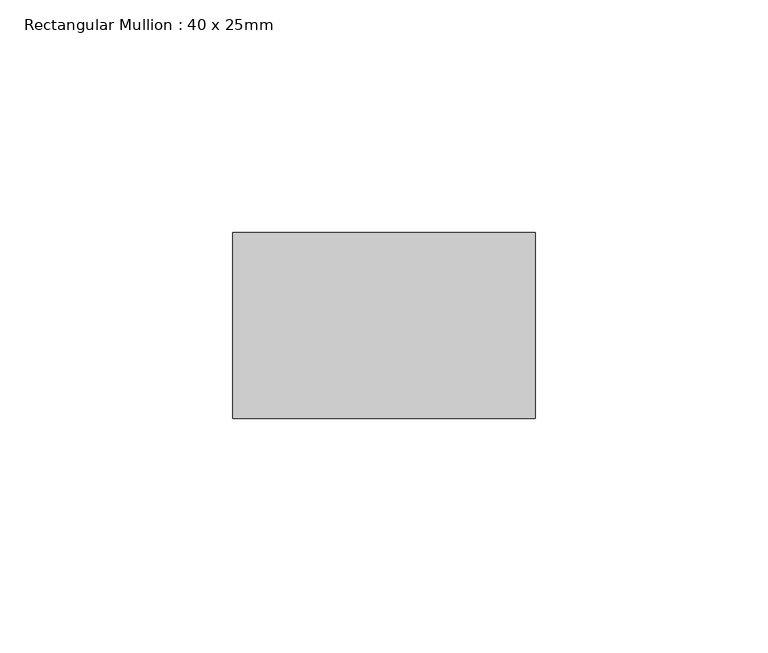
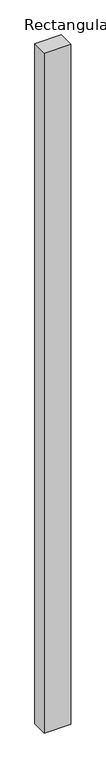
"""IFC4 building model written with IfcOpenShell, lengths in millimetres: member geometry, Rectangular Mullion : 40 x 25mm."""

from ifc_helpers import new_model, si_unit, frame, origin, place, context, project, spatial, polyline, outline, extrude, source, transform, mapped, element, save


def rectangular_mullion_40_x_25mm_67678fe8(model_context):
    return source(origin(), model_context, "Body", "SweptSolid", [
        extrude(outline(polyline([(0.0, -20.0), (0.0, -60.0), (-65.0, -60.0), (-65.0, -20.0), (0.0, -20.0)])), frame((0.0, 0.0, -1763.0), z_axis=(0.0, 0.0, 1.0), x_axis=(1.0, 0.0, 0.0)), (0.0, 0.0, 1.0), 1763.0),
    ])


if __name__ == "__main__":
    model = new_model("IFC4")
    model_context = context("Model", 3, world=origin())
    ifc_project = project(units=[si_unit("LENGTHUNIT", "METRE", prefix="MILLI")], contexts=[model_context])
    site = spatial("IfcSite", under=ifc_project)
    building = spatial("IfcBuilding", under=site)
    placement = place(None, origin())
    rectangular_mullion_40_x_25mm_shape = rectangular_mullion_40_x_25mm_67678fe8(model_context)
    element("IfcMember", 1, ObjectType="Rectangular Mullion : 40 x 25mm", at=placement, inside=building, context=model_context, shape_type="MappedRepresentation", body=[
        mapped(rectangular_mullion_40_x_25mm_shape, transform((0.0, 0.0, 0.0), x_axis=(1.0, 0.0, 0.0), y_axis=(0.0, 1.0, 0.0), z_axis=(0.0, 0.0, 1.0))),
    ])
    save(model, "model.ifc")
